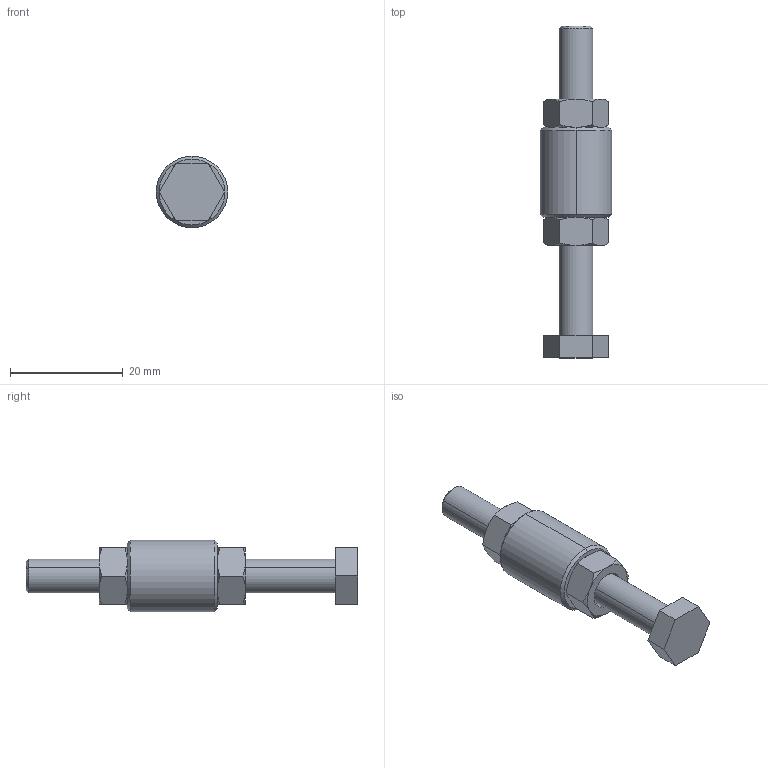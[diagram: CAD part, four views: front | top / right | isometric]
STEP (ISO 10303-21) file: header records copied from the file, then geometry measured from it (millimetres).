
FILE_DESCRIPTION (( 'STEP AP203' ), '1' );
FILE_NAME ('PSB-M6.STEP', '2011-05-20T19:27:48', ( 'Usuario' ), ( '' ), 'SwSTEP 2.0', 'SolidWorks 2011', '' );
FILE_SCHEMA (( 'CONFIG_CONTROL_DESIGN' ));
Length unit declared in the file: millimetre
Products named in the file (4): 11.50001; 12.50019; PSB-M6; 20.20008
Assembly tree (4 placements, depth 2):
  PSB-M6
    20.20008
    12.50019
    11.50001  x2
Bounding box: 12.7 x 59 x 12.7 mm (x, y, z)
Volume: 4030 mm3; surface area: 3192.3 mm2
Topology: 4 solids, 4 shells, 79 faces, 168 edges, 98 vertices
Faces by surface type: cone 42, plane 27, cylinder 10
Entity records: 1926 total; most frequent: CARTESIAN_POINT 358, DIRECTION 250, ORIENTED_EDGE 224, EDGE_CURVE 112, AXIS2_PLACEMENT_3D 102, VERTEX_POINT 66, EDGE_LOOP 58, FACE_OUTER_BOUND 53
